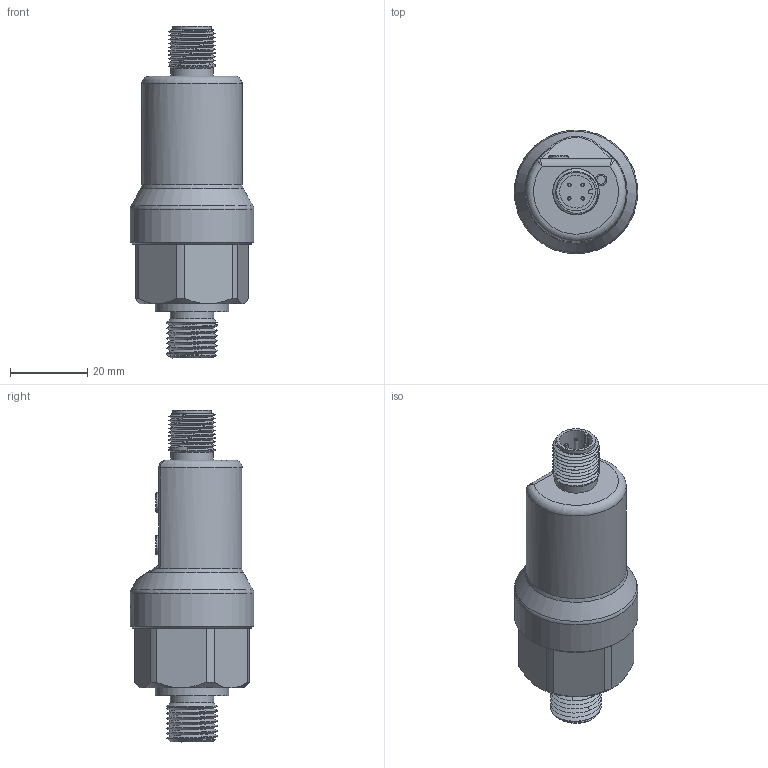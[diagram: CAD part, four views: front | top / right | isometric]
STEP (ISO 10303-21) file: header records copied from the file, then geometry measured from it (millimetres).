
FILE_DESCRIPTION( (''), '2;1');
FILE_NAME( 'PSKA_G1-4_2.step', '2025-08-21T15:26:17+08:00', (''), (''), '', '', '');
FILE_SCHEMA (('AUTOMOTIVE_DESIGN { 1 0 10303 214 3 1 1 1 }'));
Length unit declared in the file: millimetre
Products named in the file (1): PSKA G1-4_2
Bounding box: 32 x 32 x 86 mm (x, y, z)
Volume: 19420.7 mm3; surface area: 18652.4 mm2
Topology: 11 solids, 11 shells, 278 faces, 633 edges, 404 vertices
Faces by surface type: plane 141, cylinder 67, cone 27, torus 22, bspline 20, sphere 1
Full cylindrical faces by diameter (mm): 0.5 x2, 0.9 x8, 2 x4, 2.6 x1, 3 x1, 4 x1, 5 x2, 5.3 x2, 7 x1, 9.8 x2, 10 x1, 11 x1, 11.2 x1, 16.6 x1, 19 x1, 19.1 x1, 23 x2, 26 x3, 26.1 x1, 32 x1
Entity records: 11747 total; most frequent: CARTESIAN_POINT 5758, DIRECTION 1154, ORIENTED_EDGE 1076, EDGE_CURVE 538, AXIS2_PLACEMENT_3D 453, EDGE_LOOP 388, VERTEX_POINT 380, ADVANCED_FACE 277
